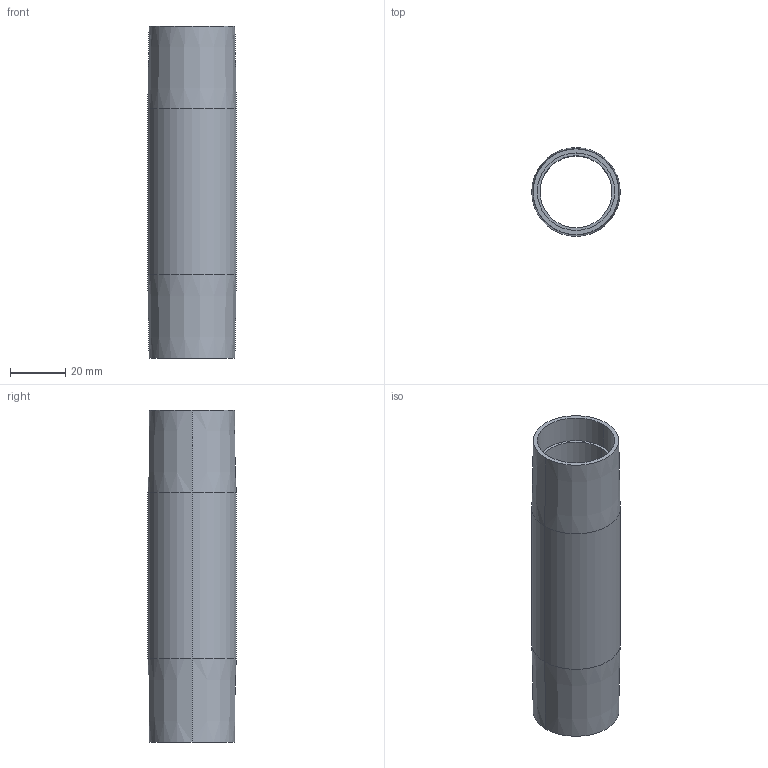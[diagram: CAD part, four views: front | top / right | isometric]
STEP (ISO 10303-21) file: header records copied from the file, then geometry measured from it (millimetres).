
FILE_DESCRIPTION (( 'STEP AP214' ), '1' );
FILE_NAME ('084.030.102.STEP', '2021-02-05T15:30:40', ( '' ), ( '' ), 'SwSTEP 2.0', 'SolidWorks 2018', '' );
FILE_SCHEMA (( 'AUTOMOTIVE_DESIGN' ));
Length unit declared in the file: millimetre
Products named in the file (1): 084.030.102
Bounding box: 32 x 32 x 120 mm (x, y, z)
Volume: 29609.5 mm3; surface area: 22345.4 mm2
Topology: 1 solids, 1 shells, 16 faces, 32 edges, 20 vertices
Faces by surface type: cylinder 8, cone 4, plane 4
Entity records: 462 total; most frequent: DIRECTION 86, CARTESIAN_POINT 69, ORIENTED_EDGE 64, AXIS2_PLACEMENT_3D 37, EDGE_CURVE 32, EDGE_LOOP 20, VERTEX_POINT 20, CIRCLE 20
